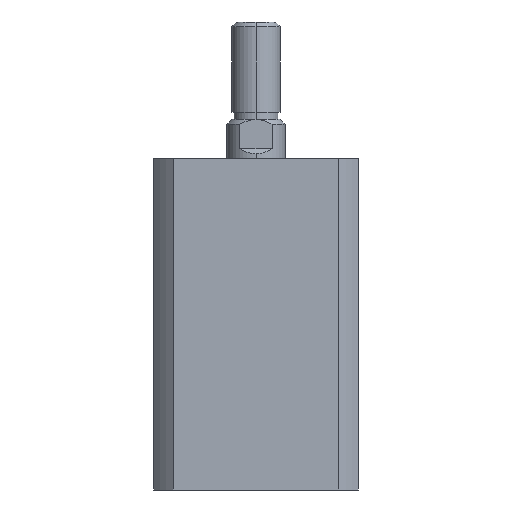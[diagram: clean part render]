
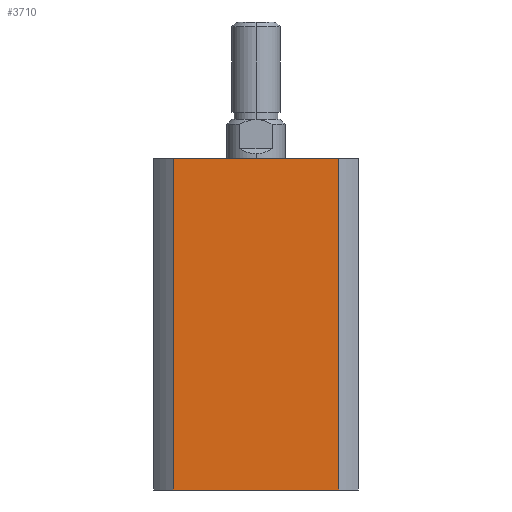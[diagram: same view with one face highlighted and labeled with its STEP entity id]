
A CAD part, left-side view. The second image highlights one B-rep face of the part: STEP entity #3710.
In plain terms, the highlighted planar face has unit normal (-1, 0, 0).
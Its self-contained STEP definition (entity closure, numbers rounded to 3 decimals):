
#181 = CARTESIAN_POINT ( 'NONE',  ( -21., -16.971, 68. ) ) ;
#199 = CARTESIAN_POINT ( 'NONE',  ( -21., 16.971, 68. ) ) ;
#201 = CARTESIAN_POINT ( 'NONE',  ( -21., 16.971, 0. ) ) ;
#214 = CARTESIAN_POINT ( 'NONE',  ( -21., -16.971, 0. ) ) ;
#515 = AXIS2_PLACEMENT_3D ( 'NONE', #622, #604, #603 ) ;
#574 = PLANE ( 'NONE',  #515 ) ;
#603 = DIRECTION ( 'NONE',  ( 0., 1., 0. ) ) ;
#604 = DIRECTION ( 'NONE',  ( 1., 0., 0. ) ) ;
#622 = CARTESIAN_POINT ( 'NONE',  ( -21., 21., 68. ) ) ;
#1128 = CARTESIAN_POINT ( 'NONE',  ( -21., 21., 0. ) ) ;
#1133 = DIRECTION ( 'NONE',  ( 0., -1., 0. ) ) ;
#2160 = VERTEX_POINT ( 'NONE', #214 ) ;
#2173 = VERTEX_POINT ( 'NONE', #201 ) ;
#2175 = VERTEX_POINT ( 'NONE', #199 ) ;
#2193 = VERTEX_POINT ( 'NONE', #181 ) ;
#2307 = ORIENTED_EDGE ( 'NONE', *, *, #4504, .F. ) ;
#2344 = ORIENTED_EDGE ( 'NONE', *, *, #4551, .T. ) ;
#2345 = ORIENTED_EDGE ( 'NONE', *, *, #4498, .F. ) ;
#2458 = ORIENTED_EDGE ( 'NONE', *, *, #4508, .F. ) ;
#2562 = VECTOR ( 'NONE', #1133, 1000. ) ;
#2566 = LINE ( 'NONE', #1128, #2562 ) ;
#2617 = VECTOR ( 'NONE', #3148, 1000. ) ;
#2619 = LINE ( 'NONE', #3147, #2617 ) ;
#2624 = VECTOR ( 'NONE', #3139, 1000. ) ;
#2627 = LINE ( 'NONE', #3140, #2624 ) ;
#2634 = VECTOR ( 'NONE', #3163, 1000. ) ;
#2639 = LINE ( 'NONE', #3157, #2634 ) ;
#2920 = FACE_OUTER_BOUND ( 'NONE', #4341, .T. ) ;
#3139 = DIRECTION ( 'NONE',  ( 0., 0., -1. ) ) ;
#3140 = CARTESIAN_POINT ( 'NONE',  ( -21., -16.971, 68. ) ) ;
#3147 = CARTESIAN_POINT ( 'NONE',  ( -21., 16.971, 68. ) ) ;
#3148 = DIRECTION ( 'NONE',  ( 0., 0., 1. ) ) ;
#3157 = CARTESIAN_POINT ( 'NONE',  ( -21., 21., 68. ) ) ;
#3163 = DIRECTION ( 'NONE',  ( 0., -1., 0. ) ) ;
#3710 = ADVANCED_FACE ( 'NONE', ( #2920 ), #574, .F. ) ;
#4341 = EDGE_LOOP ( 'NONE', ( #2307, #2345, #2458, #2344 ) ) ;
#4498 = EDGE_CURVE ( 'NONE', #2175, #2193, #2639, .T. ) ;
#4504 = EDGE_CURVE ( 'NONE', #2193, #2160, #2627, .T. ) ;
#4508 = EDGE_CURVE ( 'NONE', #2173, #2175, #2619, .T. ) ;
#4551 = EDGE_CURVE ( 'NONE', #2173, #2160, #2566, .T. ) ;
